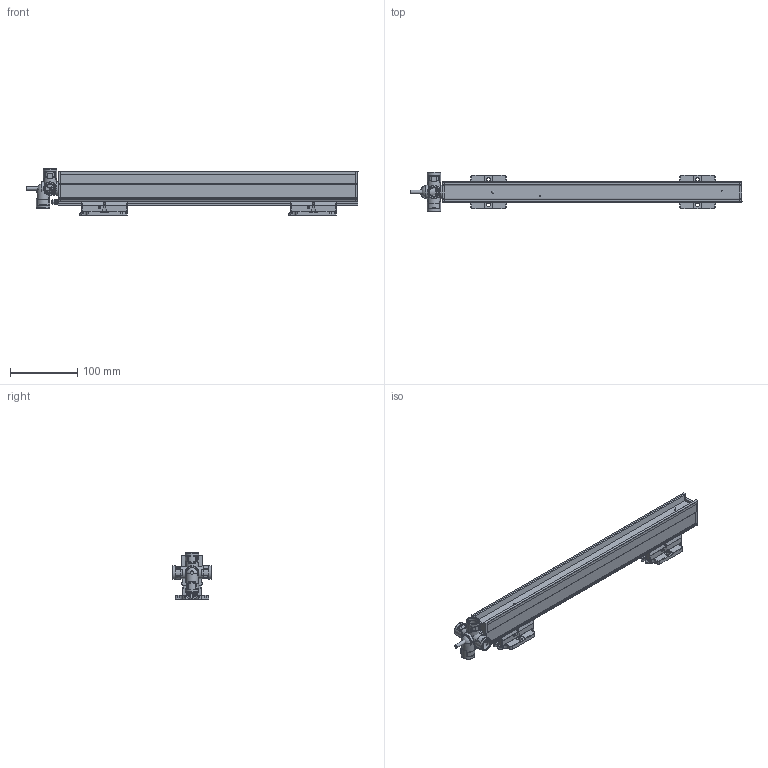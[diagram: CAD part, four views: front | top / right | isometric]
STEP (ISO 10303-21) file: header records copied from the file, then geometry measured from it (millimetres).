
FILE_DESCRIPTION(/* description */ (''),/* implementation_level */ '2;1');
FILE_NAME(/* name */ 'PERFORMAXEASYEX_0270_3D_GB',/* time_stamp */ '2017-05-31T09:44:46+02:00',/* author */ (''),/* organization */ (''),/* preprocessor_version */ 'ST-DEVELOPER v15.7',/* originating_system */ 'HiCAD 2015 2002.1 Build 408',/* authorisation */ '');
FILE_SCHEMA (('AUTOMOTIVE_DESIGN { 1 0 10303 214 1 1 1 1 }'));
Products named in the file (57): Root; -_Performax (IQ) Easy Ex 0270 eff (Hybrid + Speed); -_LED; -_PROFILE; -_POTTING; -_CAP DE; -_CAP CE; -_CABLE; -_PIN; -_COVER; 4532000100_Mounting bracket bars; -_Side piece; -_Slide piece; -_Bracket small; DIN 13-M3; DIN 76-M3; 2047507823_PE connection; DIN 916-M4x20-45H_Set screws; GEWINDE; ISO 8738-4-160 HV_Washers for studs; ISO 4032-M4-10_Hexagon nuts; DIN 127-A 4-FSt_Washers; 2047493713_Cable exits; -_Exit K; -_Clip; -_Gland body; -_Exit S; -_Exit Q; -_Washer ø20mm, 5mm thick for corr. conduit (exit
 Q); -_Exit I; -_Exit U; -_Exit A; Thread_2
Assembly tree (56 placements, depth 5):
  Root
    -_Performax (IQ) Easy Ex 0270 eff (Hybrid + Speed)
      -_LED
      -_PROFILE
      -_POTTING
      -_CAP DE
      -_CAP CE
      -_CABLE
      -_PIN
      -_PIN
      -_COVER
      4532000100_Mounting bracket bars
        -_Side piece
        -_Side piece
        -_Slide piece
        -_Bracket small
          DIN 13-M3
          DIN 13-M3
          DIN 76-M3
          DIN 76-M3
      4532000100_Mounting bracket bars
        -_Side piece
        -_Side piece
        -_Slide piece
        -_Bracket small
          DIN 13-M3
          DIN 13-M3
          DIN 76-M3
          DIN 76-M3
      2047507823_PE connection
        DIN 916-M4x20-45H_Set screws
          GEWINDE
        ISO 8738-4-160 HV_Washers for studs
        ISO 4032-M4-10_Hexagon nuts
          GEWINDE
        DIN 127-A 4-FSt_Washers
        ISO 4032-M4-10_Hexagon nuts
          GEWINDE
      2047493713_Cable exits
        -_Exit K
          -_Clip
          -_Gland body
        -_Exit S
          -_Clip
          -_Gland body
        -_Exit Q
          -_Clip
          -_Washer ø20mm, 5mm thick for corr. conduit (exit
 Q)
          -_Gland body
        -_Exit I
          -_Clip
          -_Gland body
        -_Exit U
          -_Clip
          -_Gland body
        -_Exit A
          Thread_2
Bounding box: 492.4 x 58.79 x 68.9 mm (x, y, z)
Volume: 616897.7 mm3; surface area: 211559.8 mm2
Topology: 47 solids, 53 shells, 1941 faces, 5010 edges, 3074 vertices
Faces by surface type: plane 913, cylinder 739, torus 91, sphere 87, bspline 64, cone 47
Full cylindrical faces by diameter (mm): 2.387 x8, 3 x16, 3.141 x4, 4 x5, 4.3 x1, 5.4 x2, 5.5 x10, 8 x2, 11.3 x4, 12.5 x4, 13 x1, 14.6 x5, 15.1 x5, 18.4 x4, 20 x7, 20.2 x4
Entity records: 107117 total; most frequent: CARTESIAN_POINT 22020, DIRECTION 10074, PRESENTATION_STYLE_ASSIGNMENT 9495, OVER_RIDING_STYLED_ITEM 9449, DRAUGHTING_PRE_DEFINED_CURVE_FONT 9436, CURVE_STYLE 9436, ORIENTED_EDGE 9436, EDGE_CURVE 4718
